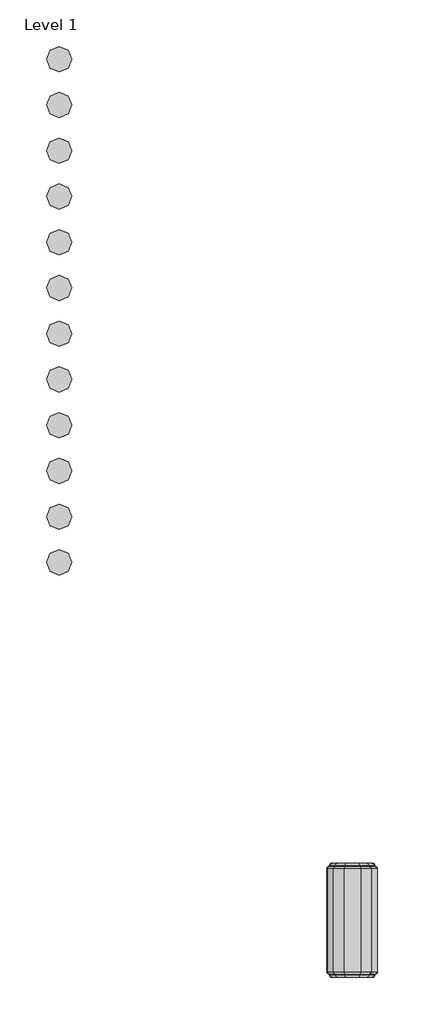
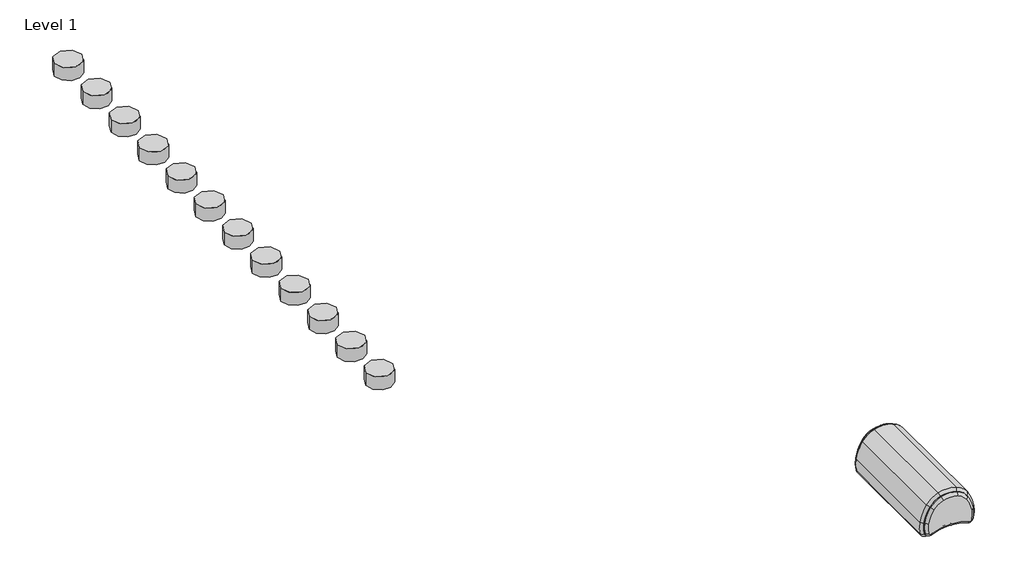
# One storey, incomplete: 12 proxies, 1 furniture element.
"""IFC4 building model written with IfcOpenShell, lengths in millimetres."""

from ifc_helpers import new_model, si_unit, origin, place, context, project, spatial, transform, mapped, element, save
from components import materialmodel_materialmodel_02e69005, furniture_424b01a7

model = new_model("IFC4")

# Units and contexts
model_context = context("Model", 3, world=origin())
ifc_project = project(units=[si_unit("LENGTHUNIT", "METRE", prefix="MILLI")], contexts=[model_context])

# Site, building, storey
site = spatial("IfcSite", under=ifc_project)
building = spatial("IfcBuilding", under=site)
storey = spatial("IfcBuildingStorey", under=building, Name="Level 1", Elevation=0.0)

# Proxies
placement = place(None, origin())
materialmodel_materialmodel_shape = materialmodel_materialmodel_02e69005(model_context)
element("IfcBuildingElementProxy", 1, Name="MaterialModel : MaterialModel", ObjectType="MaterialModel : MaterialModel", at=placement, inside=storey, context=model_context, shape_type="MappedRepresentation", body=[
    mapped(materialmodel_materialmodel_shape, transform((-5643.1381433, 4182.732333, 0.0), x_axis=(1.0, 0.0, 0.0), y_axis=(0.0, 1.0, 0.0), z_axis=(0.0, 0.0, 1.0))),
])
element("IfcBuildingElementProxy", 2, Name="MaterialModel : MaterialModel", ObjectType="MaterialModel : MaterialModel", at=placement, inside=storey, context=model_context, shape_type="MappedRepresentation", body=[
    mapped(materialmodel_materialmodel_shape, transform((-5643.1381433, 4002.732333, 0.0), x_axis=(1.0, 0.0, 0.0), y_axis=(0.0, 1.0, 0.0), z_axis=(0.0, 0.0, 1.0))),
])
element("IfcBuildingElementProxy", 3, Name="MaterialModel : MaterialModel", ObjectType="MaterialModel : MaterialModel", at=placement, inside=storey, context=model_context, shape_type="MappedRepresentation", body=[
    mapped(materialmodel_materialmodel_shape, transform((-5643.1381433, 3822.732333, 0.0), x_axis=(1.0, 0.0, 0.0), y_axis=(0.0, 1.0, 0.0), z_axis=(0.0, 0.0, 1.0))),
])
element("IfcBuildingElementProxy", 4, Name="MaterialModel : MaterialModel", ObjectType="MaterialModel : MaterialModel", at=placement, inside=storey, context=model_context, shape_type="MappedRepresentation", body=[
    mapped(materialmodel_materialmodel_shape, transform((-5643.1381433, 3642.732333, 0.0), x_axis=(1.0, 0.0, 0.0), y_axis=(0.0, 1.0, 0.0), z_axis=(0.0, 0.0, 1.0))),
])
element("IfcBuildingElementProxy", 5, Name="MaterialModel : MaterialModel", ObjectType="MaterialModel : MaterialModel", at=placement, inside=storey, context=model_context, shape_type="MappedRepresentation", body=[
    mapped(materialmodel_materialmodel_shape, transform((-5643.1381433, 3462.732333, 0.0), x_axis=(1.0, 0.0, 0.0), y_axis=(0.0, 1.0, 0.0), z_axis=(0.0, 0.0, 1.0))),
])
element("IfcBuildingElementProxy", 6, Name="MaterialModel : MaterialModel", ObjectType="MaterialModel : MaterialModel", at=placement, inside=storey, context=model_context, shape_type="MappedRepresentation", body=[
    mapped(materialmodel_materialmodel_shape, transform((-5643.1381433, 3282.732333, 0.0), x_axis=(1.0, 0.0, 0.0), y_axis=(0.0, 1.0, 0.0), z_axis=(0.0, 0.0, 1.0))),
])
element("IfcBuildingElementProxy", 7, Name="MaterialModel : MaterialModel", ObjectType="MaterialModel : MaterialModel", at=placement, inside=storey, context=model_context, shape_type="MappedRepresentation", body=[
    mapped(materialmodel_materialmodel_shape, transform((-5643.1381433, 3102.732333, 0.0), x_axis=(1.0, 0.0, 0.0), y_axis=(0.0, 1.0, 0.0), z_axis=(0.0, 0.0, 1.0))),
])
element("IfcBuildingElementProxy", 8, Name="MaterialModel : MaterialModel", ObjectType="MaterialModel : MaterialModel", at=placement, inside=storey, context=model_context, shape_type="MappedRepresentation", body=[
    mapped(materialmodel_materialmodel_shape, transform((-5643.1381433, 2922.732333, 0.0), x_axis=(1.0, 0.0, 0.0), y_axis=(0.0, 1.0, 0.0), z_axis=(0.0, 0.0, 1.0))),
])
element("IfcBuildingElementProxy", 9, Name="MaterialModel : MaterialModel", ObjectType="MaterialModel : MaterialModel", at=placement, inside=storey, context=model_context, shape_type="MappedRepresentation", body=[
    mapped(materialmodel_materialmodel_shape, transform((-5643.1381433, 2742.732333, 0.0), x_axis=(1.0, 0.0, 0.0), y_axis=(0.0, 1.0, 0.0), z_axis=(0.0, 0.0, 1.0))),
])
element("IfcBuildingElementProxy", 10, Name="MaterialModel : MaterialModel", ObjectType="MaterialModel : MaterialModel", at=placement, inside=storey, context=model_context, shape_type="MappedRepresentation", body=[
    mapped(materialmodel_materialmodel_shape, transform((-5643.1381433, 2562.732333, 0.0), x_axis=(1.0, 0.0, 0.0), y_axis=(0.0, 1.0, 0.0), z_axis=(0.0, 0.0, 1.0))),
])
element("IfcBuildingElementProxy", 11, Name="MaterialModel : MaterialModel", ObjectType="MaterialModel : MaterialModel", at=placement, inside=storey, context=model_context, shape_type="MappedRepresentation", body=[
    mapped(materialmodel_materialmodel_shape, transform((-5643.1381433, 2382.732333, 0.0), x_axis=(1.0, 0.0, 0.0), y_axis=(0.0, 1.0, 0.0), z_axis=(0.0, 0.0, 1.0))),
])
element("IfcBuildingElementProxy", 12, Name="MaterialModel : MaterialModel", ObjectType="MaterialModel : MaterialModel", at=placement, inside=storey, context=model_context, shape_type="MappedRepresentation", body=[
    mapped(materialmodel_materialmodel_shape, transform((-5643.1381433, 2202.732333, 0.0), x_axis=(1.0, 0.0, 0.0), y_axis=(0.0, 1.0, 0.0), z_axis=(0.0, 0.0, 1.0))),
])

# Furniture
furniture_shape = furniture_424b01a7(model_context)
element("IfcFurniture", 13, ObjectType="Norr11 - Studio Sofa - Armrest : Norr11 - Studio Sofa - Armrest", at=placement, inside=storey, context=model_context, shape_type="MappedRepresentation", body=[
    mapped(furniture_shape, transform((-4489.193281, 787.9257472, 0.0), x_axis=(1.0, 0.0, 0.0), y_axis=(0.0, 1.0, 0.0), z_axis=(0.0, 0.0, 1.0))),
])

save(model, "model.ifc")
